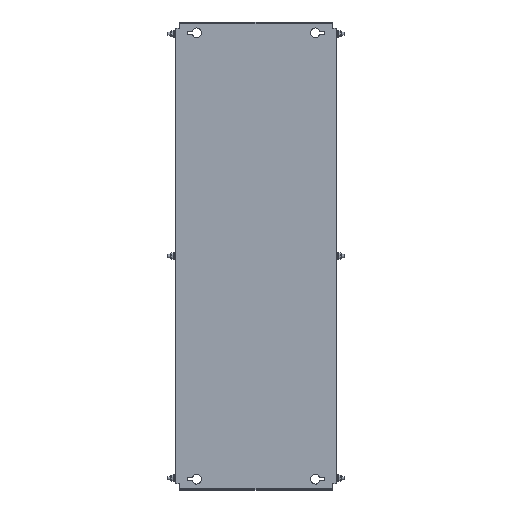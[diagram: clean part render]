
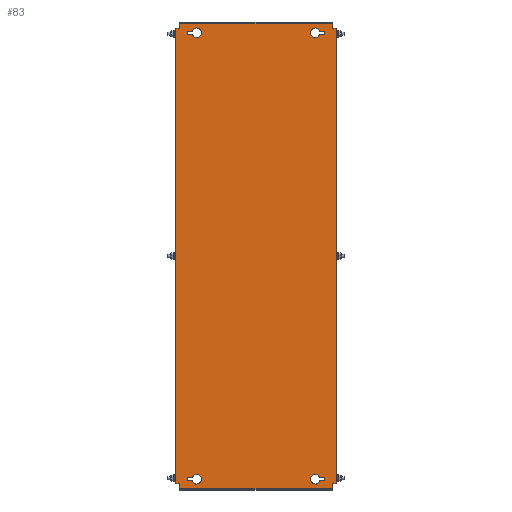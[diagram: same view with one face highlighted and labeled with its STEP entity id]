
A CAD part, top view. The second image highlights one B-rep face of the part: STEP entity #83.
In plain terms, the highlighted planar face has unit normal (0, 0, 1).
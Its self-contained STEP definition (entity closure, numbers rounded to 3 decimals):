
#83 = ADVANCED_FACE('',(#84,#119,#154,#316,#351),#386,.T.);
#84 = FACE_BOUND('',#85,.T.);
#85 = EDGE_LOOP('',(#86,#96,#104,#112));
#86 = ORIENTED_EDGE('',*,*,#87,.T.);
#87 = EDGE_CURVE('',#88,#90,#92,.T.);
#88 = VERTEX_POINT('',#89);
#89 = CARTESIAN_POINT('',(118.393,417.75,2.));
#90 = VERTEX_POINT('',#91);
#91 = CARTESIAN_POINT('',(128.,417.75,2.));
#92 = LINE('',#93,#94);
#93 = CARTESIAN_POINT('',(127.,417.75,2.));
#94 = VECTOR('',#95,1.);
#95 = DIRECTION('',(1.,0.,0.));
#96 = ORIENTED_EDGE('',*,*,#97,.T.);
#97 = EDGE_CURVE('',#90,#98,#100,.T.);
#98 = VERTEX_POINT('',#99);
#99 = CARTESIAN_POINT('',(128.,411.25,2.));
#100 = LINE('',#101,#102);
#101 = CARTESIAN_POINT('',(128.,417.75,2.));
#102 = VECTOR('',#103,1.);
#103 = DIRECTION('',(0.,-1.,0.));
#104 = ORIENTED_EDGE('',*,*,#105,.T.);
#105 = EDGE_CURVE('',#98,#106,#108,.T.);
#106 = VERTEX_POINT('',#107);
#107 = CARTESIAN_POINT('',(118.393,411.25,2.));
#108 = LINE('',#109,#110);
#109 = CARTESIAN_POINT('',(127.,411.25,2.));
#110 = VECTOR('',#111,1.);
#111 = DIRECTION('',(-1.,0.,0.));
#112 = ORIENTED_EDGE('',*,*,#113,.T.);
#113 = EDGE_CURVE('',#106,#88,#114,.T.);
#114 = CIRCLE('',#115,9.);
#115 = AXIS2_PLACEMENT_3D('',#116,#117,#118);
#116 = CARTESIAN_POINT('',(110.,414.5,2.));
#117 = DIRECTION('',(0.,0.,-1.));
#118 = DIRECTION('',(1.,0.,0.));
#119 = FACE_BOUND('',#120,.T.);
#120 = EDGE_LOOP('',(#121,#131,#139,#147));
#121 = ORIENTED_EDGE('',*,*,#122,.T.);
#122 = EDGE_CURVE('',#123,#125,#127,.T.);
#123 = VERTEX_POINT('',#124);
#124 = CARTESIAN_POINT('',(-118.393,-417.75,2.));
#125 = VERTEX_POINT('',#126);
#126 = CARTESIAN_POINT('',(-128.,-417.75,2.));
#127 = LINE('',#128,#129);
#128 = CARTESIAN_POINT('',(-127.,-417.75,2.));
#129 = VECTOR('',#130,1.);
#130 = DIRECTION('',(-1.,0.,0.));
#131 = ORIENTED_EDGE('',*,*,#132,.T.);
#132 = EDGE_CURVE('',#125,#133,#135,.T.);
#133 = VERTEX_POINT('',#134);
#134 = CARTESIAN_POINT('',(-128.,-411.25,2.));
#135 = LINE('',#136,#137);
#136 = CARTESIAN_POINT('',(-128.,-417.75,2.));
#137 = VECTOR('',#138,1.);
#138 = DIRECTION('',(0.,1.,0.));
#139 = ORIENTED_EDGE('',*,*,#140,.T.);
#140 = EDGE_CURVE('',#133,#141,#143,.T.);
#141 = VERTEX_POINT('',#142);
#142 = CARTESIAN_POINT('',(-118.393,-411.25,2.));
#143 = LINE('',#144,#145);
#144 = CARTESIAN_POINT('',(-127.,-411.25,2.));
#145 = VECTOR('',#146,1.);
#146 = DIRECTION('',(1.,-0.,-0.));
#147 = ORIENTED_EDGE('',*,*,#148,.T.);
#148 = EDGE_CURVE('',#141,#123,#149,.T.);
#149 = CIRCLE('',#150,9.);
#150 = AXIS2_PLACEMENT_3D('',#151,#152,#153);
#151 = CARTESIAN_POINT('',(-110.,-414.5,2.));
#152 = DIRECTION('',(0.,0.,-1.));
#153 = DIRECTION('',(-1.,0.,0.));
#154 = FACE_BOUND('',#155,.T.);
#155 = EDGE_LOOP('',(#156,#166,#174,#182,#190,#198,#206,#214,#222,#230,
    #238,#246,#254,#262,#270,#278,#286,#294,#302,#310));
#156 = ORIENTED_EDGE('',*,*,#157,.F.);
#157 = EDGE_CURVE('',#158,#160,#162,.T.);
#158 = VERTEX_POINT('',#159);
#159 = CARTESIAN_POINT('',(-147.4,422.5,2.));
#160 = VERTEX_POINT('',#161);
#161 = CARTESIAN_POINT('',(-142.,422.5,2.));
#162 = LINE('',#163,#164);
#163 = CARTESIAN_POINT('',(-148.,422.5,2.));
#164 = VECTOR('',#165,1.);
#165 = DIRECTION('',(1.,0.,-0.));
#166 = ORIENTED_EDGE('',*,*,#167,.T.);
#167 = EDGE_CURVE('',#158,#168,#170,.T.);
#168 = VERTEX_POINT('',#169);
#169 = CARTESIAN_POINT('',(-150.,422.5,2.));
#170 = LINE('',#171,#172);
#171 = CARTESIAN_POINT('',(-147.4,422.5,2.));
#172 = VECTOR('',#173,1.);
#173 = DIRECTION('',(-1.,0.,0.));
#174 = ORIENTED_EDGE('',*,*,#175,.F.);
#175 = EDGE_CURVE('',#176,#168,#178,.T.);
#176 = VERTEX_POINT('',#177);
#177 = CARTESIAN_POINT('',(-150.,-422.5,2.));
#178 = LINE('',#179,#180);
#179 = CARTESIAN_POINT('',(-150.,-432.5,2.));
#180 = VECTOR('',#181,1.);
#181 = DIRECTION('',(0.,1.,-0.));
#182 = ORIENTED_EDGE('',*,*,#183,.F.);
#183 = EDGE_CURVE('',#184,#176,#186,.T.);
#184 = VERTEX_POINT('',#185);
#185 = CARTESIAN_POINT('',(-147.4,-422.5,2.));
#186 = LINE('',#187,#188);
#187 = CARTESIAN_POINT('',(-142.,-422.5,2.));
#188 = VECTOR('',#189,1.);
#189 = DIRECTION('',(-1.,-0.,-0.));
#190 = ORIENTED_EDGE('',*,*,#191,.T.);
#191 = EDGE_CURVE('',#184,#192,#194,.T.);
#192 = VERTEX_POINT('',#193);
#193 = CARTESIAN_POINT('',(-142.,-422.5,2.));
#194 = LINE('',#195,#196);
#195 = CARTESIAN_POINT('',(-148.,-422.5,2.));
#196 = VECTOR('',#197,1.);
#197 = DIRECTION('',(1.,0.,-0.));
#198 = ORIENTED_EDGE('',*,*,#199,.T.);
#199 = EDGE_CURVE('',#192,#200,#202,.T.);
#200 = VERTEX_POINT('',#201);
#201 = CARTESIAN_POINT('',(-142.,-431.9,2.));
#202 = LINE('',#203,#204);
#203 = CARTESIAN_POINT('',(-142.,432.5,2.));
#204 = VECTOR('',#205,1.);
#205 = DIRECTION('',(0.,-1.,0.));
#206 = ORIENTED_EDGE('',*,*,#207,.T.);
#207 = EDGE_CURVE('',#200,#208,#210,.T.);
#208 = VERTEX_POINT('',#209);
#209 = CARTESIAN_POINT('',(-142.,-432.5,2.));
#210 = LINE('',#211,#212);
#211 = CARTESIAN_POINT('',(-142.,-431.9,2.));
#212 = VECTOR('',#213,1.);
#213 = DIRECTION('',(-0.,-1.,-0.));
#214 = ORIENTED_EDGE('',*,*,#215,.T.);
#215 = EDGE_CURVE('',#208,#216,#218,.T.);
#216 = VERTEX_POINT('',#217);
#217 = CARTESIAN_POINT('',(142.,-432.5,2.));
#218 = LINE('',#219,#220);
#219 = CARTESIAN_POINT('',(142.,-432.5,2.));
#220 = VECTOR('',#221,1.);
#221 = DIRECTION('',(1.,0.,0.));
#222 = ORIENTED_EDGE('',*,*,#223,.F.);
#223 = EDGE_CURVE('',#224,#216,#226,.T.);
#224 = VERTEX_POINT('',#225);
#225 = CARTESIAN_POINT('',(142.,-431.9,2.));
#226 = LINE('',#227,#228);
#227 = CARTESIAN_POINT('',(142.,-432.5,2.));
#228 = VECTOR('',#229,1.);
#229 = DIRECTION('',(0.,-1.,0.));
#230 = ORIENTED_EDGE('',*,*,#231,.T.);
#231 = EDGE_CURVE('',#224,#232,#234,.T.);
#232 = VERTEX_POINT('',#233);
#233 = CARTESIAN_POINT('',(142.,-422.5,2.));
#234 = LINE('',#235,#236);
#235 = CARTESIAN_POINT('',(142.,432.5,2.));
#236 = VECTOR('',#237,1.);
#237 = DIRECTION('',(0.,1.,-0.));
#238 = ORIENTED_EDGE('',*,*,#239,.F.);
#239 = EDGE_CURVE('',#240,#232,#242,.T.);
#240 = VERTEX_POINT('',#241);
#241 = CARTESIAN_POINT('',(147.4,-422.5,2.));
#242 = LINE('',#243,#244);
#243 = CARTESIAN_POINT('',(148.,-422.5,2.));
#244 = VECTOR('',#245,1.);
#245 = DIRECTION('',(-1.,0.,-0.));
#246 = ORIENTED_EDGE('',*,*,#247,.T.);
#247 = EDGE_CURVE('',#240,#248,#250,.T.);
#248 = VERTEX_POINT('',#249);
#249 = CARTESIAN_POINT('',(150.,-422.5,2.));
#250 = LINE('',#251,#252);
#251 = CARTESIAN_POINT('',(147.4,-422.5,2.));
#252 = VECTOR('',#253,1.);
#253 = DIRECTION('',(1.,0.,0.));
#254 = ORIENTED_EDGE('',*,*,#255,.F.);
#255 = EDGE_CURVE('',#256,#248,#258,.T.);
#256 = VERTEX_POINT('',#257);
#257 = CARTESIAN_POINT('',(150.,422.5,2.));
#258 = LINE('',#259,#260);
#259 = CARTESIAN_POINT('',(150.,-432.5,2.));
#260 = VECTOR('',#261,1.);
#261 = DIRECTION('',(0.,-1.,-0.));
#262 = ORIENTED_EDGE('',*,*,#263,.F.);
#263 = EDGE_CURVE('',#264,#256,#266,.T.);
#264 = VERTEX_POINT('',#265);
#265 = CARTESIAN_POINT('',(147.4,422.5,2.));
#266 = LINE('',#267,#268);
#267 = CARTESIAN_POINT('',(-142.,422.5,2.));
#268 = VECTOR('',#269,1.);
#269 = DIRECTION('',(1.,-0.,-0.));
#270 = ORIENTED_EDGE('',*,*,#271,.T.);
#271 = EDGE_CURVE('',#264,#272,#274,.T.);
#272 = VERTEX_POINT('',#273);
#273 = CARTESIAN_POINT('',(142.,422.5,2.));
#274 = LINE('',#275,#276);
#275 = CARTESIAN_POINT('',(148.,422.5,2.));
#276 = VECTOR('',#277,1.);
#277 = DIRECTION('',(-1.,0.,-0.));
#278 = ORIENTED_EDGE('',*,*,#279,.T.);
#279 = EDGE_CURVE('',#272,#280,#282,.T.);
#280 = VERTEX_POINT('',#281);
#281 = CARTESIAN_POINT('',(142.,431.9,2.));
#282 = LINE('',#283,#284);
#283 = CARTESIAN_POINT('',(142.,432.5,2.));
#284 = VECTOR('',#285,1.);
#285 = DIRECTION('',(0.,1.,-0.));
#286 = ORIENTED_EDGE('',*,*,#287,.T.);
#287 = EDGE_CURVE('',#280,#288,#290,.T.);
#288 = VERTEX_POINT('',#289);
#289 = CARTESIAN_POINT('',(142.,432.5,2.));
#290 = LINE('',#291,#292);
#291 = CARTESIAN_POINT('',(142.,431.9,2.));
#292 = VECTOR('',#293,1.);
#293 = DIRECTION('',(-0.,1.,-0.));
#294 = ORIENTED_EDGE('',*,*,#295,.T.);
#295 = EDGE_CURVE('',#288,#296,#298,.T.);
#296 = VERTEX_POINT('',#297);
#297 = CARTESIAN_POINT('',(-142.,432.5,2.));
#298 = LINE('',#299,#300);
#299 = CARTESIAN_POINT('',(-142.,432.5,2.));
#300 = VECTOR('',#301,1.);
#301 = DIRECTION('',(-1.,0.,0.));
#302 = ORIENTED_EDGE('',*,*,#303,.F.);
#303 = EDGE_CURVE('',#304,#296,#306,.T.);
#304 = VERTEX_POINT('',#305);
#305 = CARTESIAN_POINT('',(-142.,431.9,2.));
#306 = LINE('',#307,#308);
#307 = CARTESIAN_POINT('',(-142.,-432.5,2.));
#308 = VECTOR('',#309,1.);
#309 = DIRECTION('',(0.,1.,-0.));
#310 = ORIENTED_EDGE('',*,*,#311,.T.);
#311 = EDGE_CURVE('',#304,#160,#312,.T.);
#312 = LINE('',#313,#314);
#313 = CARTESIAN_POINT('',(-142.,432.5,2.));
#314 = VECTOR('',#315,1.);
#315 = DIRECTION('',(0.,-1.,0.));
#316 = FACE_BOUND('',#317,.T.);
#317 = EDGE_LOOP('',(#318,#328,#336,#344));
#318 = ORIENTED_EDGE('',*,*,#319,.F.);
#319 = EDGE_CURVE('',#320,#322,#324,.T.);
#320 = VERTEX_POINT('',#321);
#321 = CARTESIAN_POINT('',(128.,-411.25,2.));
#322 = VERTEX_POINT('',#323);
#323 = CARTESIAN_POINT('',(118.393,-411.25,2.));
#324 = LINE('',#325,#326);
#325 = CARTESIAN_POINT('',(118.393,-411.25,2.));
#326 = VECTOR('',#327,1.);
#327 = DIRECTION('',(-1.,0.,0.));
#328 = ORIENTED_EDGE('',*,*,#329,.F.);
#329 = EDGE_CURVE('',#330,#320,#332,.T.);
#330 = VERTEX_POINT('',#331);
#331 = CARTESIAN_POINT('',(128.,-417.75,2.));
#332 = LINE('',#333,#334);
#333 = CARTESIAN_POINT('',(128.,-411.25,2.));
#334 = VECTOR('',#335,1.);
#335 = DIRECTION('',(0.,1.,0.));
#336 = ORIENTED_EDGE('',*,*,#337,.F.);
#337 = EDGE_CURVE('',#338,#330,#340,.T.);
#338 = VERTEX_POINT('',#339);
#339 = CARTESIAN_POINT('',(118.393,-417.75,2.));
#340 = LINE('',#341,#342);
#341 = CARTESIAN_POINT('',(127.,-417.75,2.));
#342 = VECTOR('',#343,1.);
#343 = DIRECTION('',(1.,0.,0.));
#344 = ORIENTED_EDGE('',*,*,#345,.F.);
#345 = EDGE_CURVE('',#322,#338,#346,.T.);
#346 = CIRCLE('',#347,9.);
#347 = AXIS2_PLACEMENT_3D('',#348,#349,#350);
#348 = CARTESIAN_POINT('',(110.,-414.5,2.));
#349 = DIRECTION('',(0.,-0.,1.));
#350 = DIRECTION('',(1.,0.,0.));
#351 = FACE_BOUND('',#352,.T.);
#352 = EDGE_LOOP('',(#353,#363,#371,#379));
#353 = ORIENTED_EDGE('',*,*,#354,.F.);
#354 = EDGE_CURVE('',#355,#357,#359,.T.);
#355 = VERTEX_POINT('',#356);
#356 = CARTESIAN_POINT('',(-128.,411.25,2.));
#357 = VERTEX_POINT('',#358);
#358 = CARTESIAN_POINT('',(-118.393,411.25,2.));
#359 = LINE('',#360,#361);
#360 = CARTESIAN_POINT('',(-118.393,411.25,2.));
#361 = VECTOR('',#362,1.);
#362 = DIRECTION('',(1.,0.,0.));
#363 = ORIENTED_EDGE('',*,*,#364,.F.);
#364 = EDGE_CURVE('',#365,#355,#367,.T.);
#365 = VERTEX_POINT('',#366);
#366 = CARTESIAN_POINT('',(-128.,417.75,2.));
#367 = LINE('',#368,#369);
#368 = CARTESIAN_POINT('',(-128.,411.25,2.));
#369 = VECTOR('',#370,1.);
#370 = DIRECTION('',(0.,-1.,0.));
#371 = ORIENTED_EDGE('',*,*,#372,.F.);
#372 = EDGE_CURVE('',#373,#365,#375,.T.);
#373 = VERTEX_POINT('',#374);
#374 = CARTESIAN_POINT('',(-118.393,417.75,2.));
#375 = LINE('',#376,#377);
#376 = CARTESIAN_POINT('',(-127.,417.75,2.));
#377 = VECTOR('',#378,1.);
#378 = DIRECTION('',(-1.,0.,0.));
#379 = ORIENTED_EDGE('',*,*,#380,.F.);
#380 = EDGE_CURVE('',#357,#373,#381,.T.);
#381 = CIRCLE('',#382,9.);
#382 = AXIS2_PLACEMENT_3D('',#383,#384,#385);
#383 = CARTESIAN_POINT('',(-110.,414.5,2.));
#384 = DIRECTION('',(0.,-0.,1.));
#385 = DIRECTION('',(-1.,0.,0.));
#386 = PLANE('',#387);
#387 = AXIS2_PLACEMENT_3D('',#388,#389,#390);
#388 = CARTESIAN_POINT('',(-142.,-432.5,2.));
#389 = DIRECTION('',(-0.,0.,1.));
#390 = DIRECTION('',(1.,0.,0.));
